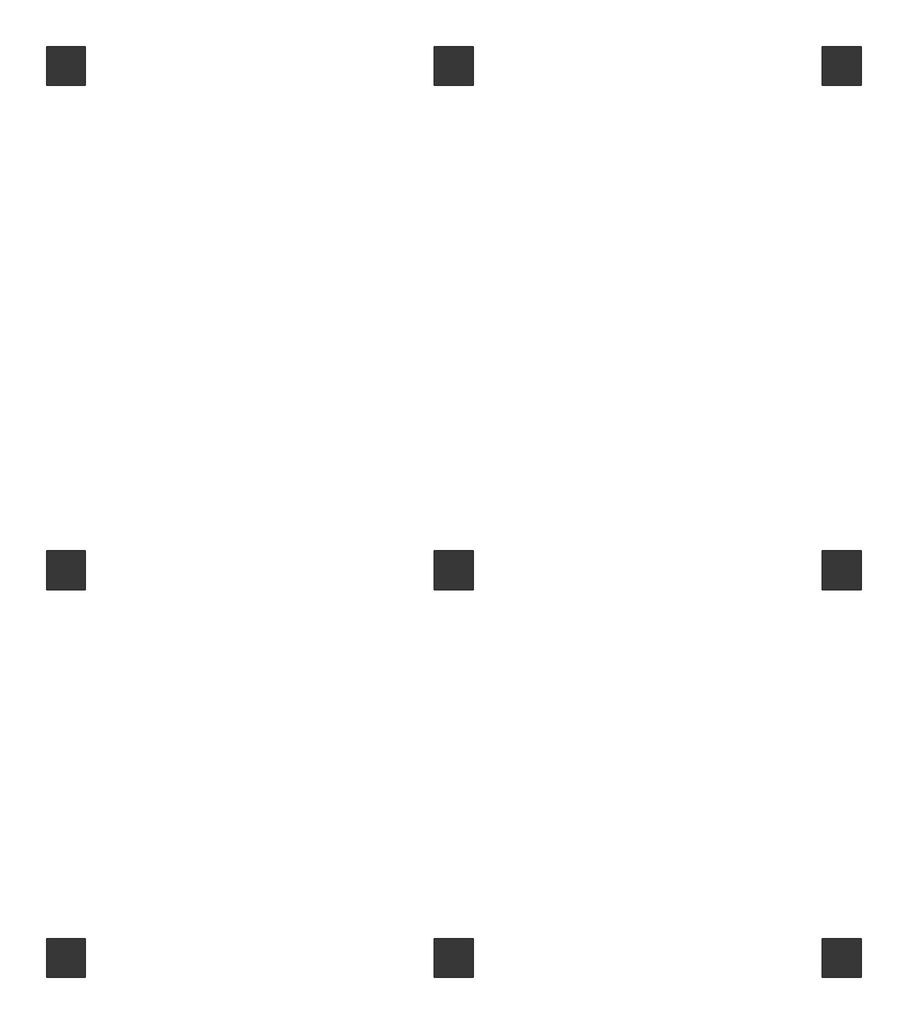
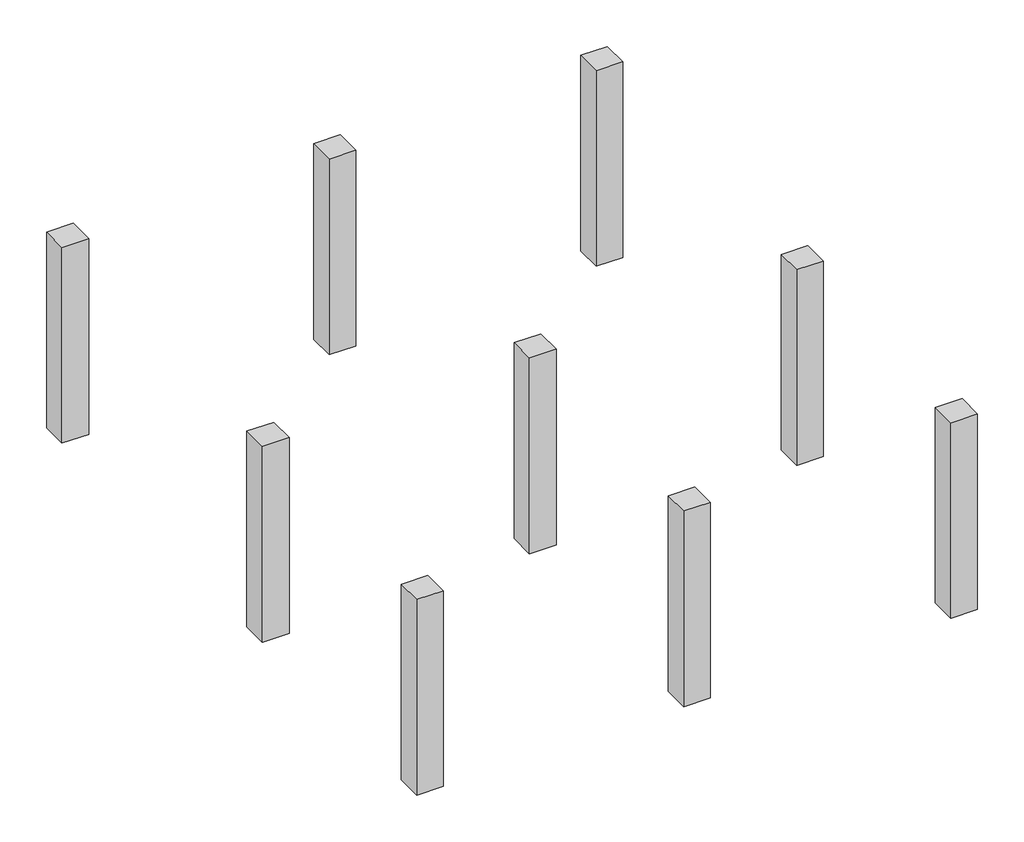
# One storey: 9 columns.
"""IFC4 building model written with IfcOpenShell, lengths in millimetres."""

from ifc_helpers import new_model, si_unit, frame, origin, place, context, project, spatial, polyline, outline, extrude, element, save

model = new_model("IFC4")

# Units and contexts
model_context = context("Model", 3, world=origin())
ifc_project = project(units=[si_unit("LENGTHUNIT", "METRE", prefix="MILLI")], contexts=[model_context])

# Site, building, storey
site = spatial("IfcSite", under=ifc_project)
building = spatial("IfcBuilding", under=site)
storey = spatial("IfcBuildingStorey", under=building, Name="T.O.F.", Elevation=-1676.4)

# Columns
placement = place(None, origin())
element("IfcColumn", 1, ObjectType="Concrete-Rectangular-Column : 24 x 24", at=placement, inside=storey, context=model_context, shape_type="SweptSolid", body=[
    extrude(outline(polyline([(-28331.582411, -1841.7551223), (-28331.582411, -2451.3551223), (-28941.182411, -2451.3551223), (-28941.182411, -1841.7551223), (-28331.582411, -1841.7551223)])), frame((0.0, 0.0, -1676.4), z_axis=(0.0, 0.0, 1.0), x_axis=(1.0, 0.0, 0.0)), (0.0, 0.0, 1.0), 4724.4),
])
element("IfcColumn", 2, ObjectType="Concrete-Rectangular-Column : 24 x 24", at=placement, inside=storey, context=model_context, shape_type="SweptSolid", body=[
    extrude(outline(polyline([(-28331.582411, 4254.2448777), (-28331.582411, 3644.6448777), (-28941.182411, 3644.6448777), (-28941.182411, 4254.2448777), (-28331.582411, 4254.2448777)])), frame((0.0, 0.0, -1676.4), z_axis=(0.0, 0.0, 1.0), x_axis=(1.0, 0.0, 0.0)), (0.0, 0.0, 1.0), 4724.4),
])
element("IfcColumn", 3, ObjectType="Concrete-Rectangular-Column : 24 x 24", at=placement, inside=storey, context=model_context, shape_type="SweptSolid", body=[
    extrude(outline(polyline([(-35037.182411, -2451.3551223), (-35037.182411, -1841.7551223), (-34427.582411, -1841.7551223), (-34427.582411, -2451.3551223), (-35037.182411, -2451.3551223)])), frame((0.0, 0.0, -1676.4), z_axis=(0.0, 0.0, 1.0), x_axis=(1.0, 0.0, 0.0)), (0.0, 0.0, 1.0), 4724.4),
])
element("IfcColumn", 4, ObjectType="Concrete-Rectangular-Column : 24 x 24", at=placement, inside=storey, context=model_context, shape_type="SweptSolid", body=[
    extrude(outline(polyline([(-35037.182411, 3644.6448777), (-35037.182411, 4254.2448777), (-34427.582411, 4254.2448777), (-34427.582411, 3644.6448777), (-35037.182411, 3644.6448777)])), frame((0.0, 0.0, -1676.4), z_axis=(0.0, 0.0, 1.0), x_axis=(1.0, 0.0, 0.0)), (0.0, 0.0, 1.0), 4724.4),
])
element("IfcColumn", 5, ObjectType="Concrete-Rectangular-Column : 24 x 24", at=placement, inside=storey, context=model_context, shape_type="SweptSolid", body=[
    extrude(outline(polyline([(-41133.182411, -2451.3551223), (-41133.182411, -1841.7551223), (-40523.582411, -1841.7551223), (-40523.582411, -2451.3551223), (-41133.182411, -2451.3551223)])), frame((0.0, 0.0, -1676.4), z_axis=(0.0, 0.0, 1.0), x_axis=(1.0, 0.0, 0.0)), (0.0, 0.0, 1.0), 4724.4),
])
element("IfcColumn", 6, ObjectType="Concrete-Rectangular-Column : 24 x 24", at=placement, inside=storey, context=model_context, shape_type="SweptSolid", body=[
    extrude(outline(polyline([(-41133.182411, 3644.6448777), (-41133.182411, 4254.2448777), (-40523.582411, 4254.2448777), (-40523.582411, 3644.6448777), (-41133.182411, 3644.6448777)])), frame((0.0, 0.0, -1676.4), z_axis=(0.0, 0.0, 1.0), x_axis=(1.0, 0.0, 0.0)), (0.0, 0.0, 1.0), 4724.4),
])
element("IfcColumn", 7, ObjectType="Concrete-Rectangular-Column : 24 x 24", at=placement, inside=storey, context=model_context, shape_type="SweptSolid", body=[
    extrude(outline(polyline([(-28941.182411, 11569.4448777), (-28941.182411, 12179.0448777), (-28331.582411, 12179.0448777), (-28331.582411, 11569.4448777), (-28941.182411, 11569.4448777)])), frame((0.0, 0.0, -1676.4), z_axis=(0.0, 0.0, 1.0), x_axis=(1.0, 0.0, 0.0)), (0.0, 0.0, 1.0), 4724.4),
])
element("IfcColumn", 8, ObjectType="Concrete-Rectangular-Column : 24 x 24", at=placement, inside=storey, context=model_context, shape_type="SweptSolid", body=[
    extrude(outline(polyline([(-35037.182411, 11569.4448777), (-35037.182411, 12179.0448777), (-34427.582411, 12179.0448777), (-34427.582411, 11569.4448777), (-35037.182411, 11569.4448777)])), frame((0.0, 0.0, -1676.4), z_axis=(0.0, 0.0, 1.0), x_axis=(1.0, 0.0, 0.0)), (0.0, 0.0, 1.0), 4724.4),
])
element("IfcColumn", 9, ObjectType="Concrete-Rectangular-Column : 24 x 24", at=placement, inside=storey, context=model_context, shape_type="SweptSolid", body=[
    extrude(outline(polyline([(-41133.182411, 11569.4448777), (-41133.182411, 12179.0448777), (-40523.582411, 12179.0448777), (-40523.582411, 11569.4448777), (-41133.182411, 11569.4448777)])), frame((0.0, 0.0, -1676.4), z_axis=(0.0, 0.0, 1.0), x_axis=(1.0, 0.0, 0.0)), (0.0, 0.0, 1.0), 4724.4),
])

save(model, "model.ifc")
